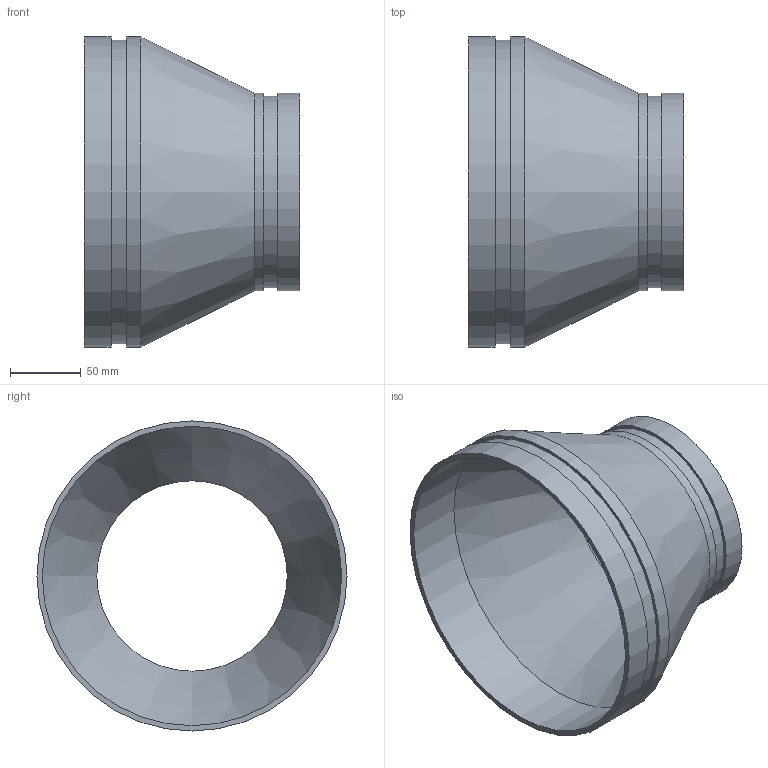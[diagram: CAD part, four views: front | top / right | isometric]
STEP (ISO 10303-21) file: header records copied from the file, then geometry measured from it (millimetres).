
FILE_DESCRIPTION(/* description */ ('VIC REDUCER CONCENTRIC No 450-SS','CAx-IF Rec.Pracs.---Representation and Presentation of Product Manufacturing Information (PMI)---4.0---2014-10-13'),/* implementation_level */ '2;1');
FILE_NAME(/* name */ 'C:\Users\kkamble\AppData\Roaming\Autodesk\ApplicationPlugins\Back Up\Victaulic_SS-OGS_Reducer Concentric_Sched 10S_No 450 SS (OGS)\Victaulic_SS-OGS_Reducer Concentric_Sched 10S_No 450 SS (OGS)_08.0x05.0 (139.7) (200x125).stp',/* time_stamp */ '2020-09-08T12:33:45+05:00',/* author */ ('CORINNE GRAY'),/* organization */ ('Victaulic'),/* preprocessor_version */ 'ST-DEVELOPER v17.2',/* originating_system */ 'Autodesk Inventor 2019',/* authorisation */ '');
FILE_SCHEMA (('AP242_MANAGED_MODEL_BASED_3D_ENGINEERING_MIM_LF { 1 0 10303 442 1 1 4 }'));
Length unit declared in the file: inch
Products named in the file (1): 450 SS-08.0x05.0 (139.7)
Bounding box: 152.4 x 219.07 x 219.07 mm (x, y, z)
Volume: 252028.8 mm3; surface area: 189089 mm2
Topology: 1 solids, 1 shells, 16 faces, 42 edges, 32 vertices
Faces by surface type: cylinder 8, plane 6, cone 2
Full cylindrical faces by diameter (mm): 134.62 x1, 135.484 x1, 139.7 x2, 211.582 x1, 214.401 x1, 219.075 x2
Entity records: 686 total; most frequent: DIRECTION 134, CARTESIAN_POINT 108, ORIENTED_EDGE 84, AXIS2_PLACEMENT_3D 62, EDGE_CURVE 42, CIRCLE 32, VERTEX_POINT 32, EDGE_LOOP 22
